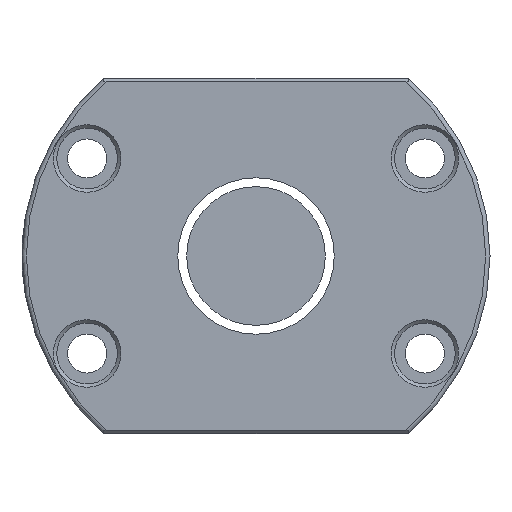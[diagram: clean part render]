
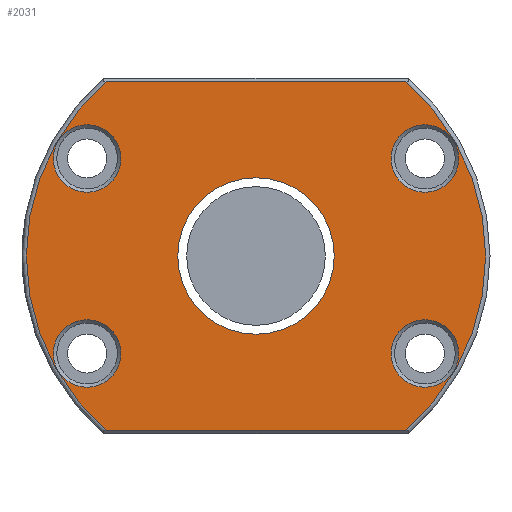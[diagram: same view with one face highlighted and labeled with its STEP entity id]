
A CAD part, left-side view. The second image highlights one B-rep face of the part: STEP entity #2031.
In plain terms, the highlighted planar face has unit normal (-1, 0, 0).
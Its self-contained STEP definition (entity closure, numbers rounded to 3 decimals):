
#54 = DIRECTION ( 'NONE',  ( -1., 0., 0. ) ) ;
#201 = CARTESIAN_POINT ( 'NONE',  ( -166., 38.971, -22.5 ) ) ;
#239 = CARTESIAN_POINT ( 'NONE',  ( -166., -38.971, -22.5 ) ) ;
#394 = CARTESIAN_POINT ( 'NONE',  ( -166., 34.539, 40.2 ) ) ;
#397 = DIRECTION ( 'NONE',  ( 1., 0., 0. ) ) ;
#412 = CARTESIAN_POINT ( 'NONE',  ( -166., 38.971, -14.7 ) ) ;
#416 = FACE_BOUND ( 'NONE', #3092, .T. ) ;
#431 = FACE_BOUND ( 'NONE', #3098, .T. ) ;
#530 = VERTEX_POINT ( 'NONE', #1077 ) ;
#567 = CARTESIAN_POINT ( 'NONE',  ( -166., 0., 0. ) ) ;
#654 = VECTOR ( 'NONE', #1858, 1000. ) ;
#667 = CARTESIAN_POINT ( 'NONE',  ( -166., 34.539, -40.2 ) ) ;
#671 = VERTEX_POINT ( 'NONE', #2090 ) ;
#675 = CARTESIAN_POINT ( 'NONE',  ( -166., -38.971, 22.5 ) ) ;
#679 = EDGE_CURVE ( 'NONE', #530, #837, #1059, .T. ) ;
#697 = ORIENTED_EDGE ( 'NONE', *, *, #2096, .T. ) ;
#705 = CARTESIAN_POINT ( 'NONE',  ( -166., 54., 0. ) ) ;
#722 = FACE_BOUND ( 'NONE', #2608, .T. ) ;
#790 = ORIENTED_EDGE ( 'NONE', *, *, #1113, .T. ) ;
#825 = EDGE_LOOP ( 'NONE', ( #952, #3026, #790, #2030 ) ) ;
#837 = VERTEX_POINT ( 'NONE', #394 ) ;
#854 = ORIENTED_EDGE ( 'NONE', *, *, #1699, .T. ) ;
#862 = AXIS2_PLACEMENT_3D ( 'NONE', #201, #2422, #3218 ) ;
#863 = CARTESIAN_POINT ( 'NONE',  ( -166., 33.586, 40.2 ) ) ;
#914 = DIRECTION ( 'NONE',  ( 0., 0., -1. ) ) ;
#940 = CARTESIAN_POINT ( 'NONE',  ( -166., -34.539, -40.2 ) ) ;
#947 = DIRECTION ( 'NONE',  ( 0., 0., 1. ) ) ;
#952 = ORIENTED_EDGE ( 'NONE', *, *, #1349, .T. ) ;
#1041 = CARTESIAN_POINT ( 'NONE',  ( -166., 38.971, 22.5 ) ) ;
#1059 = LINE ( 'NONE', #863, #654 ) ;
#1077 = CARTESIAN_POINT ( 'NONE',  ( -166., -34.539, 40.2 ) ) ;
#1090 = CARTESIAN_POINT ( 'NONE',  ( -166., 0., -18.05 ) ) ;
#1113 = EDGE_CURVE ( 'NONE', #837, #1539, #2326, .T. ) ;
#1140 = CARTESIAN_POINT ( 'NONE',  ( -166., 38.971, 30.3 ) ) ;
#1162 = DIRECTION ( 'NONE',  ( -1., 0., 0. ) ) ;
#1181 = VECTOR ( 'NONE', #1906, 1000. ) ;
#1239 = DIRECTION ( 'NONE',  ( 1., 0., 0. ) ) ;
#1263 = DIRECTION ( 'NONE',  ( 0., 0., 1. ) ) ;
#1333 = AXIS2_PLACEMENT_3D ( 'NONE', #705, #1162, #947 ) ;
#1348 = CARTESIAN_POINT ( 'NONE',  ( -166., 0., 0. ) ) ;
#1349 = EDGE_CURVE ( 'NONE', #1721, #530, #1592, .T. ) ;
#1409 = FACE_BOUND ( 'NONE', #1522, .T. ) ;
#1440 = CARTESIAN_POINT ( 'NONE',  ( -166., 0., 0. ) ) ;
#1490 = CIRCLE ( 'NONE', #862, 7.8 ) ;
#1522 = EDGE_LOOP ( 'NONE', ( #697 ) ) ;
#1539 = VERTEX_POINT ( 'NONE', #667 ) ;
#1592 = CIRCLE ( 'NONE', #2586, 53. ) ;
#1615 = VERTEX_POINT ( 'NONE', #1140 ) ;
#1643 = AXIS2_PLACEMENT_3D ( 'NONE', #239, #1796, #3182 ) ;
#1648 = VERTEX_POINT ( 'NONE', #2906 ) ;
#1699 = EDGE_CURVE ( 'NONE', #1648, #1648, #2169, .T. ) ;
#1721 = VERTEX_POINT ( 'NONE', #940 ) ;
#1796 = DIRECTION ( 'NONE',  ( 1., 0., 0. ) ) ;
#1801 = AXIS2_PLACEMENT_3D ( 'NONE', #1440, #397, #914 ) ;
#1858 = DIRECTION ( 'NONE',  ( 0., 1., 0. ) ) ;
#1906 = DIRECTION ( 'NONE',  ( 0., -1., 0. ) ) ;
#1931 = EDGE_CURVE ( 'NONE', #2650, #2650, #2484, .T. ) ;
#1943 = DIRECTION ( 'NONE',  ( 1., 0., 0. ) ) ;
#1992 = DIRECTION ( 'NONE',  ( 0., 0., 1. ) ) ;
#2030 = ORIENTED_EDGE ( 'NONE', *, *, #2895, .T. ) ;
#2031 = ADVANCED_FACE ( 'NONE', ( #2195, #722, #1409, #431, #416, #3189 ), #2406, .T. ) ;
#2090 = CARTESIAN_POINT ( 'NONE',  ( -166., -38.971, 30.3 ) ) ;
#2096 = EDGE_CURVE ( 'NONE', #671, #671, #3214, .T. ) ;
#2169 = CIRCLE ( 'NONE', #1643, 7.8 ) ;
#2195 = FACE_OUTER_BOUND ( 'NONE', #825, .T. ) ;
#2206 = EDGE_LOOP ( 'NONE', ( #2593 ) ) ;
#2240 = EDGE_CURVE ( 'NONE', #1615, #1615, #2589, .T. ) ;
#2326 = CIRCLE ( 'NONE', #2946, 53. ) ;
#2406 = PLANE ( 'NONE',  #1333 ) ;
#2417 = LINE ( 'NONE', #2680, #1181 ) ;
#2422 = DIRECTION ( 'NONE',  ( 1., 0., 0. ) ) ;
#2454 = DIRECTION ( 'NONE',  ( 0., 0., 1. ) ) ;
#2456 = EDGE_CURVE ( 'NONE', #2888, #2888, #1490, .T. ) ;
#2484 = CIRCLE ( 'NONE', #1801, 18.05 ) ;
#2521 = ORIENTED_EDGE ( 'NONE', *, *, #2240, .T. ) ;
#2525 = DIRECTION ( 'NONE',  ( 0., 0., 1. ) ) ;
#2586 = AXIS2_PLACEMENT_3D ( 'NONE', #1348, #54, #2525 ) ;
#2589 = CIRCLE ( 'NONE', #3060, 7.8 ) ;
#2593 = ORIENTED_EDGE ( 'NONE', *, *, #1931, .T. ) ;
#2608 = EDGE_LOOP ( 'NONE', ( #854 ) ) ;
#2650 = VERTEX_POINT ( 'NONE', #1090 ) ;
#2680 = CARTESIAN_POINT ( 'NONE',  ( -166., -33.586, -40.2 ) ) ;
#2850 = AXIS2_PLACEMENT_3D ( 'NONE', #675, #1943, #2454 ) ;
#2888 = VERTEX_POINT ( 'NONE', #412 ) ;
#2895 = EDGE_CURVE ( 'NONE', #1539, #1721, #2417, .T. ) ;
#2906 = CARTESIAN_POINT ( 'NONE',  ( -166., -38.971, -14.7 ) ) ;
#2946 = AXIS2_PLACEMENT_3D ( 'NONE', #567, #2992, #1263 ) ;
#2992 = DIRECTION ( 'NONE',  ( -1., 0., 0. ) ) ;
#3026 = ORIENTED_EDGE ( 'NONE', *, *, #679, .T. ) ;
#3060 = AXIS2_PLACEMENT_3D ( 'NONE', #1041, #1239, #1992 ) ;
#3092 = EDGE_LOOP ( 'NONE', ( #3180 ) ) ;
#3098 = EDGE_LOOP ( 'NONE', ( #2521 ) ) ;
#3180 = ORIENTED_EDGE ( 'NONE', *, *, #2456, .T. ) ;
#3182 = DIRECTION ( 'NONE',  ( 0., 0., 1. ) ) ;
#3189 = FACE_BOUND ( 'NONE', #2206, .T. ) ;
#3214 = CIRCLE ( 'NONE', #2850, 7.8 ) ;
#3218 = DIRECTION ( 'NONE',  ( 0., 0., 1. ) ) ;
